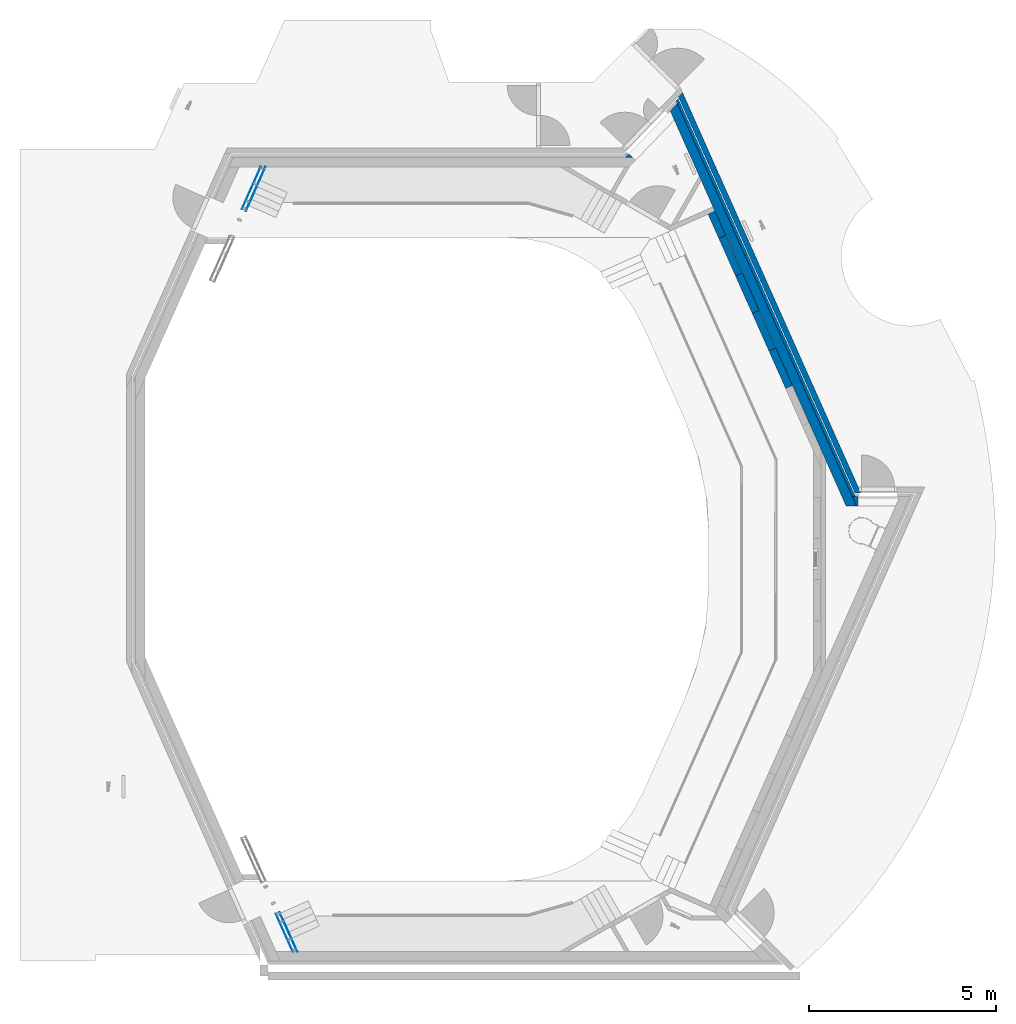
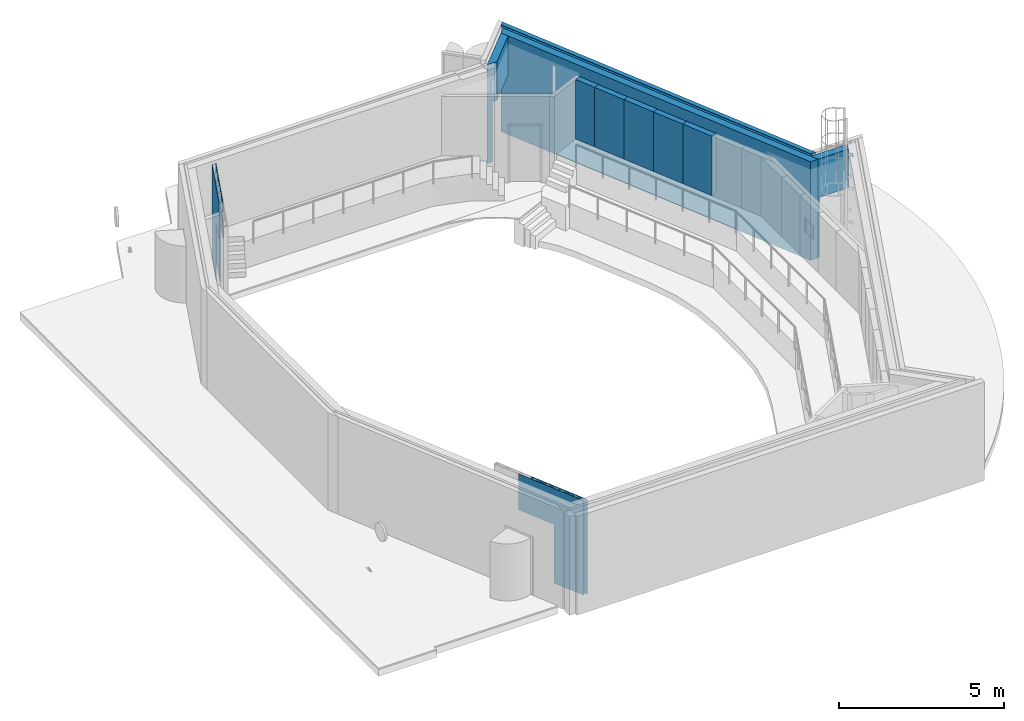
# One storey, part 10 of 16: 14 walls.
"""IFC2X3 building model written with IfcOpenShell, lengths in millimetres."""

from ifc_helpers import new_model, entity, si_unit, converted_unit, derived_unit, direction, frame, frame_2d, origin, place, context, subcontext, project, spatial, polyline, rectangle, outline, extrude, clip, halfspace, faceted_brep, material, layer, layer_set, layer_usage, type_object, element, save


model = new_model("IFC2X3")

# Units and contexts
model_context = context("Model", 3, precision=0.01, world=origin(), true_north=direction((6.123031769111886e-17, 1.0)))
body_context = subcontext(model_context, "Body", "Model", "MODEL_VIEW")
ifc_project = project(units=[si_unit("LENGTHUNIT", "METRE", prefix="MILLI"), si_unit("AREAUNIT", "SQUARE_METRE"), si_unit("VOLUMEUNIT", "CUBIC_METRE"), converted_unit("PLANEANGLEUNIT", "DEGREE", entity("IfcRatioMeasure", 0.017453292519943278), si_unit("PLANEANGLEUNIT", "RADIAN"), dimensions=[0, 0, 0, 0, 0, 0, 0]), si_unit("MASSUNIT", "GRAM", prefix="KILO"), derived_unit("MASSDENSITYUNIT", [(si_unit("MASSUNIT", "GRAM", prefix="KILO"), 1), (si_unit("LENGTHUNIT", "METRE"), -3)]), derived_unit("MOMENTOFINERTIAUNIT", [(si_unit("LENGTHUNIT", "METRE"), 4)]), si_unit("TIMEUNIT", "SECOND"), si_unit("FREQUENCYUNIT", "HERTZ"), si_unit("THERMODYNAMICTEMPERATUREUNIT", "DEGREE_CELSIUS"), derived_unit("THERMALTRANSMITTANCEUNIT", [(si_unit("MASSUNIT", "GRAM", prefix="KILO"), 1), (si_unit("THERMODYNAMICTEMPERATUREUNIT", "KELVIN"), -1), (si_unit("TIMEUNIT", "SECOND"), -3)]), derived_unit("VOLUMETRICFLOWRATEUNIT", [(si_unit("LENGTHUNIT", "METRE"), 3), (si_unit("TIMEUNIT", "SECOND"), -1)]), derived_unit("MASSFLOWRATEUNIT", [(si_unit("MASSUNIT", "GRAM", prefix="KILO"), 1), (si_unit("TIMEUNIT", "SECOND"), -1)]), derived_unit("ROTATIONALFREQUENCYUNIT", [(si_unit("TIMEUNIT", "SECOND"), -1)]), si_unit("ELECTRICCURRENTUNIT", "AMPERE"), si_unit("ELECTRICVOLTAGEUNIT", "VOLT"), si_unit("POWERUNIT", "WATT"), si_unit("FORCEUNIT", "NEWTON", prefix="KILO"), si_unit("ILLUMINANCEUNIT", "LUX"), si_unit("LUMINOUSFLUXUNIT", "LUMEN"), si_unit("LUMINOUSINTENSITYUNIT", "CANDELA"), derived_unit("USERDEFINED", [(si_unit("MASSUNIT", "GRAM", prefix="KILO"), -1), (si_unit("LENGTHUNIT", "METRE"), -2), (si_unit("TIMEUNIT", "SECOND"), 3), (si_unit("LUMINOUSFLUXUNIT", "LUMEN"), 1)]), derived_unit("SOUNDPOWERUNIT", [(si_unit("MASSUNIT", "GRAM", prefix="KILO"), 1), (si_unit("LENGTHUNIT", "METRE"), 2), (si_unit("TIMEUNIT", "SECOND"), -3)]), derived_unit("SOUNDPRESSUREUNIT", [(si_unit("MASSUNIT", "GRAM", prefix="KILO"), 1), (si_unit("LENGTHUNIT", "METRE"), -1), (si_unit("TIMEUNIT", "SECOND"), -2)]), derived_unit("LINEARVELOCITYUNIT", [(si_unit("LENGTHUNIT", "METRE"), 1), (si_unit("TIMEUNIT", "SECOND"), -1)]), si_unit("PRESSUREUNIT", "PASCAL"), derived_unit("USERDEFINED", [(si_unit("LENGTHUNIT", "METRE"), -2), (si_unit("MASSUNIT", "GRAM", prefix="KILO"), 1), (si_unit("TIMEUNIT", "SECOND"), -2)]), derived_unit("LINEARFORCEUNIT", [(si_unit("MASSUNIT", "GRAM", prefix="KILO"), 1), (si_unit("LENGTHUNIT", "METRE"), 1), (si_unit("TIMEUNIT", "SECOND"), -2), (si_unit("LENGTHUNIT", "METRE"), -1)]), derived_unit("PLANARFORCEUNIT", [(si_unit("MASSUNIT", "GRAM", prefix="KILO"), 1), (si_unit("LENGTHUNIT", "METRE"), 1), (si_unit("TIMEUNIT", "SECOND"), -2), (si_unit("LENGTHUNIT", "METRE"), -2)])], contexts=[model_context])

# Site, building, storey
site_placement = place(None, frame((-10000.0, -10000.0, 0.0)))
site = spatial("IfcSite", under=ifc_project, at=site_placement, Name="Default", CompositionType="ELEMENT")
building_placement = place(site_placement, origin())
building = spatial("IfcBuilding", under=site, at=building_placement, CompositionType="ELEMENT")
storey_placement = place(building_placement, frame((0.0, 0.0, 9000.0)))
storey = spatial("IfcBuildingStorey", under=building, at=storey_placement, Name="02 2e verdieping", CompositionType="ELEMENT", Elevation=9000.0)

# Walls
ifc_material_1 = material(Name="NLRS_beton ihwg")
ifc_layer_1 = layer(ifc_material_1, 250.00000000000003)
ifc_layer_set_1 = layer_set([ifc_layer_1], Name="Basic Wall:NLRS_21_WA_beton 250mm_ags")
wall_type_1 = type_object("IfcWallType", Name="Basic Wall:NLRS_21_WA_beton 250mm_ags", PredefinedType="STANDARD", material=ifc_layer_set_1)
wall_1_placement = place(storey_placement, frame((39918.91729617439, 50794.82510490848, -50.0), z_axis=(0.0, 0.0, 1.0), x_axis=(0.40673664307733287, -0.9135454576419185, 0.0)))
element("IfcWall", 1, at=wall_1_placement, inside=storey, type_object=wall_type_1, Name="Basic Wall:NLRS_21_WA_beton 250mm_ags", ObjectType="Basic Wall:NLRS_21_WA_beton 250mm_ags", context=body_context, shape_type="Brep", body=[
    faceted_brep([(101.12221718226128, -125.0, 0.0), (11686.34128409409, -125.0, 0.0), (11686.341284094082, -125.0, 3650.0), (101.12221718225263, -125.0, 3650.0), (101.12221718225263, -125.0, 2220.0), (11797.64845542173, 125.0, 0.0), (11523.989385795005, 125.0, 0.0), (0.0, 125.0, 0.0), (0.0, 125.0, 3650.0), (11797.64845542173, 125.0, 3650.0)], [[[0, 1, 2, 3, 4]], [[5, 6, 7, 8, 9]], [[0, 4, 3, 8, 7]], [[1, 5, 9, 2]], [[1, 0, 7, 6, 5]], [[3, 2, 9, 8]]]),
])
wall_2_placement = place(storey_placement, frame((39935.80622246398, 50564.806749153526, -50.0), z_axis=(0.0, 0.0, 1.0), x_axis=(-0.6943722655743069, -0.7196159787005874, 0.0)))
element("IfcWall", 2, at=wall_2_placement, inside=storey, type_object=wall_type_1, Name="Basic Wall:NLRS_21_WA_beton 250mm_ags", ObjectType="Basic Wall:NLRS_21_WA_beton 250mm_ags", context=body_context, shape_type="Brep", body=[
    faceted_brep([(0.0, -125.0, 2220.0), (1600.8832312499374, -125.0, 2220.0), (1600.8832312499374, -125.0, 0.0), (1736.48629176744, -125.0, 0.0), (1736.48629176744, -125.0, 3650.0), (0.0, -125.0, 3650.0), (1495.256147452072, 125.0, 2220.0), (101.1222171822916, 125.0, 2220.0), (101.12221718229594, 125.0, 3650.0), (1495.2561474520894, 125.0, 3650.0), (1600.8832312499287, 15.532872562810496, 0.0), (1600.8832312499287, 15.532872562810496, 2220.0)], [[[0, 1, 2, 3, 4, 5]], [[6, 7, 8, 9]], [[3, 2, 10]], [[7, 0, 5, 8]], [[3, 10, 11, 6, 9, 4]], [[1, 0, 7, 6, 11]], [[2, 1, 11, 10]], [[5, 4, 9, 8]]]),
])
wall_3_placement = place(storey_placement, frame((44720.339236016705, 40192.97902798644, -50.0)))
element("IfcWall", 3, at=wall_3_placement, inside=storey, type_object=wall_type_1, Name="Basic Wall:NLRS_21_WA_beton 250mm_ags", ObjectType="Basic Wall:NLRS_21_WA_beton 250mm_ags", context=body_context, shape_type="Brep", body=[
    faceted_brep([(111.30717132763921, -125.0, 0.0), (158.23437862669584, -125.0, 0.0), (158.23437862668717, -125.0, 2220.0), (1168.2343786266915, -125.0, 2220.0), (1168.2343786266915, -125.0, 3650.0), (111.30717132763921, -125.0, 3650.0), (1279.5415499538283, 125.0, 2220.0), (158.23437862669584, 125.0, 2220.0), (158.23437862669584, 125.0, 0.0), (0.0, 125.0, 0.0), (0.0, 125.0, 3650.0), (1279.5415499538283, 125.0, 3650.0)], [[[0, 1, 2, 3, 4, 5]], [[6, 7, 8, 9, 10, 11]], [[1, 0, 9, 8]], [[3, 6, 11, 4]], [[9, 0, 5, 10]], [[3, 2, 7, 6]], [[2, 1, 8, 7]], [[5, 4, 11, 10]]]),
])
ifc_material_2 = material(Name="NLRS_kalkzandsteen")
ifc_layer_2 = layer(ifc_material_2, 150.0)
ifc_layer_set_2 = layer_set([ifc_layer_2], Name="Basic Wall:NLRS_22_WA_kalkzandsteen 150mm_ags")
ifc_layer_usage_1 = layer_usage(ifc_layer_set_2, "AXIS2", "NEGATIVE", 75.0)
wall_type_2 = type_object("IfcWallType", Name="Basic Wall:NLRS_22_WA_kalkzandsteen 150mm_ags", PredefinedType="STANDARD", material=ifc_layer_set_2)
wall_4_placement = place(storey_placement, frame((40108.01076136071, 51107.692229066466, -50.0), z_axis=(0.0, 0.0, 1.0), x_axis=(0.4067366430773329, -0.9135454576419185, 0.0)))
element("IfcWallStandardCase", 4, at=wall_4_placement, inside=storey, type_object=wall_type_2, material=ifc_layer_usage_1, Name="Basic Wall:NLRS_22_WA_kalkzandsteen 150mm_ags", ObjectType="Basic Wall:NLRS_22_WA_kalkzandsteen 150mm_ags", context=body_context, shape_type="Clipping", body=[
    clip(extrude(outline(polyline([(11667.955725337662, -75.0), (11734.740028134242, 75.0), (11570.544586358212, 75.0), (0.0, 75.0), (60.67333030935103, -75.0), (11667.955725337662, -75.0)])), origin(), (0.0, 0.0, 1.0), 3649.9999999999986), halfspace(frame((0.0, 0.0, -50.0)), True)),
])
ifc_material_3 = material(Name="NLRS_multiplex")
ifc_layer_3 = layer(ifc_material_3, 18.0)
ifc_layer_set_3 = layer_set([ifc_layer_3], Name="Basic Wall:NLRS_42_WA_multiplex 18mm_ags")
wall_type_3 = type_object("IfcWallType", Name="Basic Wall:NLRS_42_WA_multiplex 18mm_ags", PredefinedType="STANDARD", material=ifc_layer_set_3)
wall_5_placement = place(storey_placement, frame((28994.688608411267, 30030.41320480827, 0.0), z_axis=(0.0, 0.0, 1.0), x_axis=(0.412211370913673, -0.9110882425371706, 0.0)))
element("IfcWall", 5, at=wall_5_placement, inside=storey, type_object=wall_type_3, Name="Basic Wall:NLRS_42_WA_multiplex 18mm_ags", ObjectType="Basic Wall:NLRS_42_WA_multiplex 18mm_ags", context=body_context, shape_type="Brep", body=[
    faceted_brep([(931.9972641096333, -9.0, 0.0), (949.9972641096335, -9.0, 0.0), (2087.287722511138, -9.0, 0.0), (2087.287722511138, -9.0, 3500.0), (0.0, -9.0, 3500.0), (0.0, -9.0, 2170.0), (931.9972641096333, -9.0, 2170.0), (2095.431614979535, 9.0, 0.0), (931.9972641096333, 9.0, 0.0), (931.9972641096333, 9.0, 2170.0), (9.0, 9.0, 2170.0), (9.0, 9.0, 3500.0), (2095.431614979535, 9.0, 3500.0), (9.0, -2.239903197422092, 3500.0), (0.0, -2.239903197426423, 3500.0), (0.0, -2.239903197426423, 2170.0), (9.0, -2.239903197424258, 2170.0)], [[[0, 1, 2, 3, 4, 5, 6]], [[7, 8, 9, 10, 11, 12]], [[3, 2, 7, 12]], [[2, 1, 0, 8, 7]], [[4, 3, 12, 11, 13, 14]], [[5, 4, 14, 15]], [[6, 5, 15, 16, 10, 9]], [[0, 6, 9, 8]], [[13, 16, 15, 14]], [[16, 13, 11, 10]]]),
])
wall_6_placement = place(storey_placement, frame((28144.868265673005, 47228.47926903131, 0.0), z_axis=(0.0, 0.0, 1.0), x_axis=(0.4067926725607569, 0.9135205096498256, 0.0)))
element("IfcWall", 6, at=wall_6_placement, inside=storey, type_object=wall_type_3, Name="Basic Wall:NLRS_42_WA_multiplex 18mm_ags", ObjectType="Basic Wall:NLRS_42_WA_multiplex 18mm_ags", context=body_context, shape_type="Brep", body=[
    faceted_brep([(811.0, -9.0, 0.0), (2109.6207963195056, -9.0, 0.0), (2109.6207963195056, -9.0, 3500.0), (0.0, -9.0, 3500.0), (0.0, -9.0, 2170.0), (811.0, -9.0, 2170.0), (811.0, 9.0, 0.0), (811.0, 9.0, 2170.0), (0.0, 9.0, 2170.0), (0.0, 9.0, 3500.0), (2101.605357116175, 9.0, 3500.0), (2101.605357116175, 9.0, 0.0), (829.0, 9.0, 0.0)], [[[0, 1, 2, 3, 4, 5]], [[6, 7, 8, 9, 10, 11, 12]], [[2, 1, 11, 10]], [[1, 0, 6, 12, 11]], [[3, 2, 10, 9]], [[4, 3, 9, 8]], [[5, 4, 8, 7]], [[0, 5, 7, 6]]]),
])
ifc_layer_4 = layer(ifc_material_3, 13.000000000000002)
ifc_layer_set_4 = layer_set([ifc_layer_4], Name="Basic Wall:NLRS_42_WA_multiplex 13mm_ags")
wall_type_4 = type_object("IfcWallType", Name="Basic Wall:NLRS_42_WA_multiplex 13mm_ags", PredefinedType="STANDARD", material=ifc_layer_set_4)
wall_7_placement = place(storey_placement, frame((29739.18022070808, 28122.32062578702, 0.0), z_axis=(0.0, 0.0, 1.0), x_axis=(-0.4122113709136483, 0.911088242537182, 0.0)))
element("IfcWall", 7, at=wall_7_placement, inside=storey, type_object=wall_type_4, Name="Basic Wall:NLRS_42_WA_multiplex 13mm_ags", ObjectType="Basic Wall:NLRS_42_WA_multiplex 13mm_ags", context=body_context, shape_type="Brep", body=[
    faceted_brep([(0.0, -6.500000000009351, 0.0), (1095.3313584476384, -6.500000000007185, 0.0), (1113.3313584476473, -6.500000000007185, 0.0), (1113.3313584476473, -6.500000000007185, 2170.0), (2439.331358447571, -6.500000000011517, 2170.0), (2439.331358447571, -6.500000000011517, 3500.0), (0.0, -6.500000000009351, 3500.0), (5.881700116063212, 6.499999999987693, 0.0), (5.881700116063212, 6.499999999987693, 3500.0), (2439.331358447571, 6.499999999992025, 3500.0), (2439.331358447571, 6.499999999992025, 2170.0), (1113.3313584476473, 6.499999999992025, 2170.0), (1113.3313584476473, 6.499999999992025, 0.0)], [[[0, 1, 2, 3, 4, 5, 6]], [[7, 8, 9, 10, 11, 12]], [[0, 6, 8, 7]], [[2, 1, 0, 7, 12]], [[5, 4, 10, 9]], [[6, 5, 9, 8]], [[4, 3, 11, 10]], [[3, 2, 12, 11]]]),
])
wall_8_placement = place(storey_placement, frame((28876.006503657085, 49154.64415237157, 0.0), z_axis=(0.0, 0.0, 1.0), x_axis=(-0.4067926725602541, -0.9135205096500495, 0.0)))
element("IfcWall", 8, at=wall_8_placement, inside=storey, type_object=wall_type_4, Name="Basic Wall:NLRS_42_WA_multiplex 13mm_ags", ObjectType="Basic Wall:NLRS_42_WA_multiplex 13mm_ags", context=body_context, shape_type="Brep", body=[
    faceted_brep([(5.788928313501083, -6.500000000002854, 0.0), (1246.012803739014, -6.500000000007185, 0.0), (1246.0128037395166, -6.500000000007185, 2170.0), (2057.012803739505, -6.500000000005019, 2170.0), (2057.012803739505, -6.500000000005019, 3500.0), (5.788928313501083, -6.500000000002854, 3500.0), (0.0, 6.499999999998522, 0.0), (0.0, 6.499999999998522, 3500.0), (2057.012803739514, 6.499999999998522, 3500.0), (2057.012803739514, 6.49999999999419, 2170.0), (1246.0128037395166, 6.499999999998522, 2170.0), (1246.012803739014, 6.499999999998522, 0.0)], [[[0, 1, 2, 3, 4, 5]], [[6, 7, 8, 9, 10, 11]], [[0, 5, 7, 6]], [[1, 0, 6, 11]], [[4, 3, 9, 8]], [[5, 4, 8, 7]], [[2, 1, 11, 10]], [[3, 2, 10, 9]]]),
])
ifc_material_4 = material(Name="NLRS_isolatie")
ifc_layer_5 = layer(ifc_material_4, 80.0)
ifc_layer_set_5 = layer_set([ifc_layer_5], Name="Basic Wall:NLRS_21_WA_isolatie 80mm_ags")
ifc_layer_usage_2 = layer_usage(ifc_layer_set_5, "AXIS2", "NEGATIVE", 40.0)
wall_type_5 = type_object("IfcWallType", Name="Basic Wall:NLRS_21_WA_isolatie 80mm_ags", PredefinedType="STANDARD", material=ifc_layer_set_5)
wall_9_placement = place(storey_placement, frame((44771.368319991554, 40301.70956226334, 0.0), z_axis=(0.0, 0.0, 1.0), x_axis=(-0.4067366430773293, 0.9135454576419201, 0.0)))
element("IfcWallStandardCase", 9, at=wall_9_placement, inside=storey, type_object=wall_type_5, material=ifc_layer_usage_2, Name="Basic Wall:NLRS_21_WA_isolatie 80mm_ags", ObjectType="Basic Wall:NLRS_21_WA_isolatie 80mm_ags", context=body_context, shape_type="Clipping", body=[
    clip(extrude(outline(polyline([(11678.26344108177, -40.0), (11645.904331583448, 40.0), (11559.6076806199, 40.0), (35.61829482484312, 40.0), (0.0, -40.0), (87.57090228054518, -40.0), (11678.26344108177, -40.0)])), origin(), (0.0, 0.0, 1.0), 3600.0000000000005), halfspace(frame((0.0, 0.0, -4800.0)), True)),
])
ifc_material_5 = material(Name="NLRS_MDF")
ifc_layer_6 = layer(ifc_material_5, 12.5)
ifc_material_6 = material(Name="NLRS_gipsplaat")
ifc_layer_7 = layer(ifc_material_6, 12.5)
ifc_material_7 = material(Name="NLRS_aluminium C-profielen met isolatie")
ifc_layer_8 = layer(ifc_material_7, 175.0)
ifc_layer_set_6 = layer_set([ifc_layer_6, ifc_layer_7, ifc_layer_8], Name="Basic Wall:NLRS_22_WA_ms-wand mdfi gips iso 200mm 25-175_ags")
ifc_layer_usage_3 = layer_usage(ifc_layer_set_6, "AXIS2", "POSITIVE", -100.0)
wall_type_6 = type_object("IfcWallType", Name="Basic Wall:NLRS_22_WA_ms-wand mdfi gips iso 200mm 25-175_ags", PredefinedType="STANDARD", material=ifc_layer_set_6)
wall_10_placement = place(storey_placement, frame((42583.19740690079, 44257.57049976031, 1000.0), z_axis=(0.0, 0.0, 1.0), x_axis=(0.40673664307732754, -0.913545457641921, 0.0)))
element("IfcWallStandardCase", 10, at=wall_10_placement, inside=storey, type_object=wall_type_6, material=ifc_layer_usage_3, Name="Basic Wall:NLRS_22_WA_ms-wand mdfi gips iso 200mm 25-175_ags", ObjectType="Basic Wall:NLRS_22_WA_ms-wand mdfi gips iso 200mm 25-175_ags", context=body_context, shape_type="SweptSolid", body=[
    extrude(rectangle(XDim=1099.9999999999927, YDim=200.0000000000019, at=frame_2d((550.0000000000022, 3.979039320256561e-13), x_axis=(-1.0, 0.0))), origin(), (0.0, 0.0, 1.0), 2200.0000000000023),
])
ifc_layer_usage_4 = layer_usage(ifc_layer_set_6, "AXIS2", "POSITIVE", -100.0)
wall_11_placement = place(storey_placement, frame((41688.37679213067, 46267.37050657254, 1000.0), z_axis=(0.0, 0.0, 1.0), x_axis=(0.40673664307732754, -0.913545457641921, 0.0)))
element("IfcWallStandardCase", 11, at=wall_11_placement, inside=storey, type_object=wall_type_6, material=ifc_layer_usage_4, Name="Basic Wall:NLRS_22_WA_ms-wand mdfi gips iso 200mm 25-175_ags", ObjectType="Basic Wall:NLRS_22_WA_ms-wand mdfi gips iso 200mm 25-175_ags", context=body_context, shape_type="SweptSolid", body=[
    extrude(rectangle(XDim=1100.000000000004, YDim=200.0000000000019, at=frame_2d((550.0000000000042, -5.32196509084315e-12), x_axis=(-1.0, 0.0))), origin(), (0.0, 0.0, 1.0), 2200.0000000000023),
])
ifc_layer_usage_5 = layer_usage(ifc_layer_set_6, "AXIS2", "POSITIVE", -100.0)
wall_12_placement = place(storey_placement, frame((40950.35981092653, 47924.983786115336, 1000.0), z_axis=(0.0, 0.0, 1.0), x_axis=(0.40673664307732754, -0.913545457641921, 0.0)))
element("IfcWallStandardCase", 12, at=wall_12_placement, inside=storey, type_object=wall_type_6, material=ifc_layer_usage_5, Name="Basic Wall:NLRS_22_WA_ms-wand mdfi gips iso 200mm 25-175_ags", ObjectType="Basic Wall:NLRS_22_WA_ms-wand mdfi gips iso 200mm 25-175_ags", context=body_context, shape_type="SweptSolid", body=[
    extrude(rectangle(XDim=714.4836315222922, YDim=200.000000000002, at=frame_2d((357.24181576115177, 1.9397816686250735e-12), x_axis=(-1.0, 0.0))), origin(), (0.0, 0.0, 1.0), 2200.0000000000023),
])
ifc_material_8 = material(Name="NLRS_hout")
ifc_layer_9 = layer(ifc_material_8, 39.0)
ifc_material_9 = material(Name="NLRS_vilt")
ifc_layer_10 = layer(ifc_material_9, 1.0)
ifc_layer_11 = layer(ifc_material_7, 150.0)
ifc_layer_set_7 = layer_set([ifc_layer_9, ifc_layer_10, ifc_layer_11], Name="Basic Wall:NLRS_22_WA_akoestische voorzetwand 190mm 39-1-150_ags")
ifc_layer_usage_6 = layer_usage(ifc_layer_set_7, "AXIS2", "POSITIVE", -94.99999999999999)
wall_type_7 = type_object("IfcWallType", Name="Basic Wall:NLRS_22_WA_akoestische voorzetwand 190mm 39-1-150_ags", PredefinedType="STANDARD", material=ifc_layer_set_7)
wall_13_placement = place(storey_placement, frame((42131.219372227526, 45260.436819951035, 1000.0), z_axis=(0.0, 0.0, 1.0), x_axis=(0.40673664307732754, -0.913545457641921, 0.0)))
element("IfcWallStandardCase", 13, at=wall_13_placement, inside=storey, type_object=wall_type_7, material=ifc_layer_usage_6, Name="Basic Wall:NLRS_22_WA_akoestische voorzetwand 190mm 39-1-150_ags", ObjectType="Basic Wall:NLRS_22_WA_akoestische voorzetwand 190mm 39-1-150_ags", context=body_context, shape_type="SweptSolid", body=[
    extrude(rectangle(XDim=1100.000000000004, YDim=189.99999999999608, at=frame_2d((549.9999999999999, 6.117772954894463e-12), x_axis=(-1.0, 0.0))), origin(), (0.0, 0.0, 1.0), 2200.0000000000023),
])
ifc_layer_usage_7 = layer_usage(ifc_layer_set_7, "AXIS2", "POSITIVE", -94.99999999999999)
wall_14_placement = place(storey_placement, frame((41236.3987574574, 47270.236826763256, 1000.0), z_axis=(0.0, 0.0, 1.0), x_axis=(0.40673664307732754, -0.913545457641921, 0.0)))
element("IfcWallStandardCase", 14, at=wall_14_placement, inside=storey, type_object=wall_type_7, material=ifc_layer_usage_7, Name="Basic Wall:NLRS_22_WA_akoestische voorzetwand 190mm 39-1-150_ags", ObjectType="Basic Wall:NLRS_22_WA_akoestische voorzetwand 190mm 39-1-150_ags", context=body_context, shape_type="SweptSolid", body=[
    extrude(rectangle(XDim=1100.000000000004, YDim=189.99999999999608, at=frame_2d((549.9999999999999, 6.117772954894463e-12), x_axis=(-1.0, 0.0))), origin(), (0.0, 0.0, 1.0), 2200.0000000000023),
])

save(model, "model.ifc")
